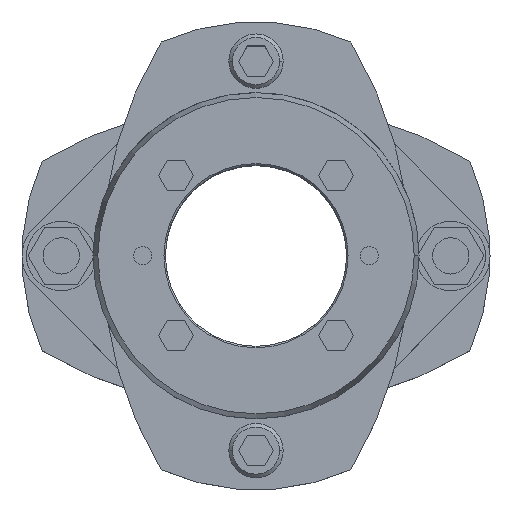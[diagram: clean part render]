
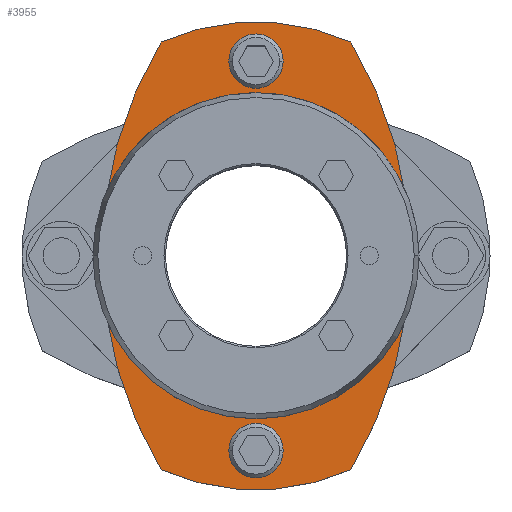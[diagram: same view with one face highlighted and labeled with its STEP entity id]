
A CAD part, top view. The second image highlights one B-rep face of the part: STEP entity #3955.
In plain terms, the highlighted planar face has unit normal (0, 0, 1).
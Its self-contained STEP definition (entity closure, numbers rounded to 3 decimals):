
#1387=CARTESIAN_POINT('',(-51.,0.,22.0));
#1388=VERTEX_POINT('',#1387);
#1404=CARTESIAN_POINT('',(-31.43,-70.841,22.0));
#1405=VERTEX_POINT('',#1404);
#1412=CARTESIAN_POINT('',(87.,0.,22.0));
#1413=DIRECTION('',(0.0,0.0,-1.0));
#1414=DIRECTION('',(-1.0,0.0,0.0));
#1415=AXIS2_PLACEMENT_3D('',#1412,#1413,#1414);
#1416=CIRCLE('',#1415,138.);
#1417=EDGE_CURVE('',#1405,#1388,#1416,.T.);
#1427=CARTESIAN_POINT('',(51.,0.,22.0));
#1428=VERTEX_POINT('',#1427);
#1437=CARTESIAN_POINT('',(31.43,-70.841,22.0));
#1438=VERTEX_POINT('',#1437);
#1439=CARTESIAN_POINT('',(-87.,0.,22.0));
#1440=DIRECTION('',(0.0,0.0,-1.0));
#1441=DIRECTION('',(-1.0,0.0,0.0));
#1442=AXIS2_PLACEMENT_3D('',#1439,#1440,#1441);
#1443=CIRCLE('',#1442,138.);
#1444=EDGE_CURVE('',#1428,#1438,#1443,.T.);
#1693=CARTESIAN_POINT('',(-43.5,0.,22.0));
#1694=VERTEX_POINT('',#1693);
#1744=CARTESIAN_POINT('',(43.5,0.,22.0));
#1745=VERTEX_POINT('',#1744);
#1752=CARTESIAN_POINT('',(0.,0.,22.0));
#1753=DIRECTION('',(0.0,0.0,-1.0));
#1754=DIRECTION('',(-1.0,0.0,0.0));
#1755=AXIS2_PLACEMENT_3D('',#1752,#1753,#1754);
#1756=CIRCLE('',#1755,43.5);
#1757=EDGE_CURVE('',#1694,#1745,#1756,.T.);
#1853=CARTESIAN_POINT('',(-9.,-64.5,22.0));
#1854=VERTEX_POINT('',#1853);
#1870=CARTESIAN_POINT('',(9.,-64.5,22.0));
#1871=VERTEX_POINT('',#1870);
#1878=CARTESIAN_POINT('',(0.,-64.5,22.0));
#1879=DIRECTION('',(0.0,0.0,-1.0));
#1880=DIRECTION('',(-1.0,0.0,0.0));
#1881=AXIS2_PLACEMENT_3D('',#1878,#1879,#1880);
#1882=CIRCLE('',#1881,9.0);
#1883=EDGE_CURVE('',#1854,#1871,#1882,.T.);
#1927=CARTESIAN_POINT('',(-9.,64.5,22.0));
#1928=VERTEX_POINT('',#1927);
#1944=CARTESIAN_POINT('',(9.,64.5,22.0));
#1945=VERTEX_POINT('',#1944);
#1952=CARTESIAN_POINT('',(0.,64.5,22.0));
#1953=DIRECTION('',(0.0,0.0,-1.0));
#1954=DIRECTION('',(-1.0,0.0,0.0));
#1955=AXIS2_PLACEMENT_3D('',#1952,#1953,#1954);
#1956=CIRCLE('',#1955,9.0);
#1957=EDGE_CURVE('',#1928,#1945,#1956,.T.);
#2496=CARTESIAN_POINT('',(0.,64.5,22.0));
#2497=DIRECTION('',(0.0,0.0,-1.0));
#2498=DIRECTION('',(-1.0,0.0,0.0));
#2499=AXIS2_PLACEMENT_3D('',#2496,#2497,#2498);
#2500=CIRCLE('',#2499,9.0);
#2501=EDGE_CURVE('',#1945,#1928,#2500,.T.);
#2556=CARTESIAN_POINT('',(0.,-64.5,22.0));
#2557=DIRECTION('',(0.0,0.0,-1.0));
#2558=DIRECTION('',(-1.0,0.0,0.0));
#2559=AXIS2_PLACEMENT_3D('',#2556,#2557,#2558);
#2560=CIRCLE('',#2559,9.0);
#2561=EDGE_CURVE('',#1871,#1854,#2560,.T.);
#3628=CARTESIAN_POINT('',(0.,0.,22.0));
#3629=DIRECTION('',(0.0,0.0,-1.0));
#3630=DIRECTION('',(-1.0,0.0,0.0));
#3631=AXIS2_PLACEMENT_3D('',#3628,#3629,#3630);
#3632=CIRCLE('',#3631,43.5);
#3633=EDGE_CURVE('',#1745,#1694,#3632,.T.);
#3849=CARTESIAN_POINT('',(-31.43,70.841,22.0));
#3850=VERTEX_POINT('',#3849);
#3851=CARTESIAN_POINT('',(31.43,70.841,22.0));
#3852=VERTEX_POINT('',#3851);
#3853=CARTESIAN_POINT('',(0.0,0.,22.0));
#3854=DIRECTION('',(0.0,0.0,-1.0));
#3855=DIRECTION('',(-1.0,0.0,0.0));
#3856=AXIS2_PLACEMENT_3D('',#3853,#3854,#3855);
#3857=CIRCLE('',#3856,77.5);
#3858=EDGE_CURVE('',#3850,#3852,#3857,.T.);
#3884=CARTESIAN_POINT('',(-87.,0.,22.0));
#3885=DIRECTION('',(0.0,0.0,-1.0));
#3886=DIRECTION('',(-1.0,0.0,0.0));
#3887=AXIS2_PLACEMENT_3D('',#3884,#3885,#3886);
#3888=CIRCLE('',#3887,138.);
#3889=EDGE_CURVE('',#3852,#1428,#3888,.T.);
#3899=CARTESIAN_POINT('',(0.0,0.,22.0));
#3900=DIRECTION('',(0.0,0.0,-1.0));
#3901=DIRECTION('',(-1.0,0.0,0.0));
#3902=AXIS2_PLACEMENT_3D('',#3899,#3900,#3901);
#3903=CIRCLE('',#3902,77.5);
#3904=EDGE_CURVE('',#1438,#1405,#3903,.T.);
#3918=CARTESIAN_POINT('',(87.,0.,22.0));
#3919=DIRECTION('',(0.0,0.0,-1.0));
#3920=DIRECTION('',(-1.0,0.0,0.0));
#3921=AXIS2_PLACEMENT_3D('',#3918,#3919,#3920);
#3922=CIRCLE('',#3921,138.);
#3923=EDGE_CURVE('',#1388,#3850,#3922,.T.);
#3930=CARTESIAN_POINT('',(0.,0.,22.0));
#3931=DIRECTION('',(0.0,0.0,1.0));
#3932=DIRECTION('',(-1.0,0.0,0.0));
#3933=AXIS2_PLACEMENT_3D('',#3930,#3931,#3932);
#3934=PLANE('',#3933);
#3935=ORIENTED_EDGE('',*,*,#3858,.F.);
#3936=ORIENTED_EDGE('',*,*,#3923,.F.);
#3937=ORIENTED_EDGE('',*,*,#1417,.F.);
#3938=ORIENTED_EDGE('',*,*,#3904,.F.);
#3939=ORIENTED_EDGE('',*,*,#1444,.F.);
#3940=ORIENTED_EDGE('',*,*,#3889,.F.);
#3941=EDGE_LOOP('',(#3935,#3936,#3937,#3938,#3939,#3940));
#3942=FACE_OUTER_BOUND('',#3941,.T.);
#3943=ORIENTED_EDGE('',*,*,#1883,.T.);
#3944=ORIENTED_EDGE('',*,*,#2561,.T.);
#3945=EDGE_LOOP('',(#3943,#3944));
#3946=FACE_BOUND('',#3945,.T.);
#3947=ORIENTED_EDGE('',*,*,#1957,.T.);
#3948=ORIENTED_EDGE('',*,*,#2501,.T.);
#3949=EDGE_LOOP('',(#3947,#3948));
#3950=FACE_BOUND('',#3949,.T.);
#3951=ORIENTED_EDGE('',*,*,#1757,.T.);
#3952=ORIENTED_EDGE('',*,*,#3633,.T.);
#3953=EDGE_LOOP('',(#3951,#3952));
#3954=FACE_BOUND('',#3953,.T.);
#3955=ADVANCED_FACE('',(#3942,#3946,#3950,#3954),#3934,.T.);
